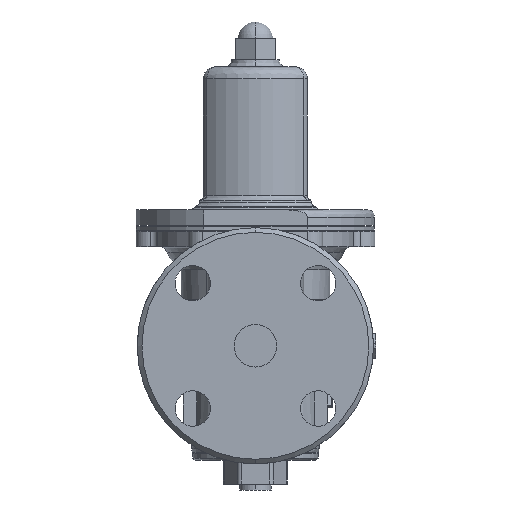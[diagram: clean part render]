
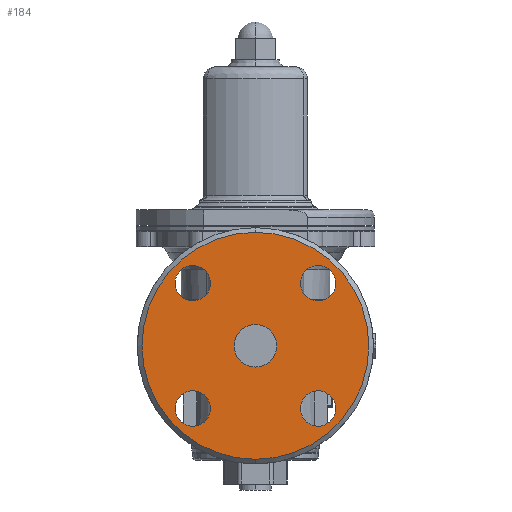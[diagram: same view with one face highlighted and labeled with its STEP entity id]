
A CAD part, left-side view. The second image highlights one B-rep face of the part: STEP entity #184.
In plain terms, the highlighted planar face has unit normal (-1, 0, 0).
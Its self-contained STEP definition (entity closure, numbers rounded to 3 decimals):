
#184=ADVANCED_FACE('',(#1842,#1843,#1844,#1845,#1846,#1847),#1841,.T.);
#1841=PLANE('',#5704);
#1842=FACE_OUTER_BOUND('',#5705,.T.);
#1843=FACE_BOUND('',#5706,.T.);
#1844=FACE_BOUND('',#5707,.T.);
#1845=FACE_BOUND('',#5708,.T.);
#1846=FACE_BOUND('',#5709,.T.);
#1847=FACE_BOUND('',#5710,.T.);
#5701=CARTESIAN_POINT('',(-100.,-93.138,-106.));
#5702=DIRECTION('',(-1.,0.,0.));
#5703=DIRECTION('',(0.,0.,1.));
#5704=AXIS2_PLACEMENT_3D('',#5701,#5702,#5703);
#5705=EDGE_LOOP('',(#8051,#8052));
#5706=EDGE_LOOP('',(#8053,#8054));
#5707=EDGE_LOOP('',(#8055,#8056));
#5708=EDGE_LOOP('',(#8057,#8058));
#5709=EDGE_LOOP('',(#8059,#8060));
#5710=EDGE_LOOP('',(#8061,#8062));
#8051=ORIENTED_EDGE('',*,*,#9496,.T.);
#8052=ORIENTED_EDGE('',*,*,#9497,.T.);
#8053=ORIENTED_EDGE('',*,*,#9498,.F.);
#8054=ORIENTED_EDGE('',*,*,#9499,.F.);
#8055=ORIENTED_EDGE('',*,*,#9500,.F.);
#8056=ORIENTED_EDGE('',*,*,#9501,.F.);
#8057=ORIENTED_EDGE('',*,*,#9502,.F.);
#8058=ORIENTED_EDGE('',*,*,#9503,.F.);
#8059=ORIENTED_EDGE('',*,*,#9504,.F.);
#8060=ORIENTED_EDGE('',*,*,#9505,.F.);
#8061=ORIENTED_EDGE('',*,*,#9506,.F.);
#8062=ORIENTED_EDGE('',*,*,#9507,.F.);
#9496=EDGE_CURVE('',#13106,#13107,#13108,.T.);
#9497=EDGE_CURVE('',#13107,#13106,#13114,.T.);
#9498=EDGE_CURVE('',#13120,#13121,#13122,.T.);
#9499=EDGE_CURVE('',#13121,#13120,#13128,.T.);
#9500=EDGE_CURVE('',#13134,#13135,#13136,.T.);
#9501=EDGE_CURVE('',#13135,#13134,#13142,.T.);
#9502=EDGE_CURVE('',#13148,#13149,#13150,.T.);
#9503=EDGE_CURVE('',#13149,#13148,#13156,.T.);
#9504=EDGE_CURVE('',#13162,#13163,#13164,.T.);
#9505=EDGE_CURVE('',#13163,#13162,#13170,.T.);
#9506=EDGE_CURVE('',#13176,#13177,#13178,.T.);
#9507=EDGE_CURVE('',#13177,#13176,#13184,.T.);
#13106=VERTEX_POINT('',#18523);
#13107=VERTEX_POINT('',#18524);
#13108=CIRCLE('',#18528,48.);
#13114=CIRCLE('',#18532,48.);
#13120=VERTEX_POINT('',#18533);
#13121=VERTEX_POINT('',#18534);
#13122=CIRCLE('',#18538,7.5);
#13128=CIRCLE('',#18542,7.5);
#13134=VERTEX_POINT('',#18543);
#13135=VERTEX_POINT('',#18544);
#13136=CIRCLE('',#18548,7.5);
#13142=CIRCLE('',#18552,7.5);
#13148=VERTEX_POINT('',#18553);
#13149=VERTEX_POINT('',#18554);
#13150=CIRCLE('',#18558,7.5);
#13156=CIRCLE('',#18562,7.5);
#13162=VERTEX_POINT('',#18563);
#13163=VERTEX_POINT('',#18564);
#13164=CIRCLE('',#18568,7.5);
#13170=CIRCLE('',#18572,7.5);
#13176=VERTEX_POINT('',#18573);
#13177=VERTEX_POINT('',#18574);
#13178=CIRCLE('',#18578,9.);
#13184=CIRCLE('',#18582,9.);
#18523=CARTESIAN_POINT('',(-100.,0.,48.));
#18524=CARTESIAN_POINT('',(-100.,0.,-48.));
#18525=CARTESIAN_POINT('',(-100.,0.,0.));
#18526=DIRECTION('',(-1.,0.,0.));
#18527=DIRECTION('',(0.,0.,1.));
#18528=AXIS2_PLACEMENT_3D('',#18525,#18526,#18527);
#18529=CARTESIAN_POINT('',(-100.,0.,0.));
#18530=DIRECTION('',(-1.,0.,0.));
#18531=DIRECTION('',(0.,0.,1.));
#18532=AXIS2_PLACEMENT_3D('',#18529,#18530,#18531);
#18533=CARTESIAN_POINT('',(-100.,26.517,34.017));
#18534=CARTESIAN_POINT('',(-100.,26.517,19.017));
#18535=CARTESIAN_POINT('',(-100.,26.517,26.517));
#18536=DIRECTION('',(-1.,0.,0.));
#18537=DIRECTION('',(0.,0.,-1.));
#18538=AXIS2_PLACEMENT_3D('',#18535,#18536,#18537);
#18539=CARTESIAN_POINT('',(-100.,26.517,26.517));
#18540=DIRECTION('',(-1.,0.,0.));
#18541=DIRECTION('',(0.,0.,-1.));
#18542=AXIS2_PLACEMENT_3D('',#18539,#18540,#18541);
#18543=CARTESIAN_POINT('',(-100.,26.517,-19.017));
#18544=CARTESIAN_POINT('',(-100.,26.517,-34.017));
#18545=CARTESIAN_POINT('',(-100.,26.517,-26.517));
#18546=DIRECTION('',(-1.,0.,0.));
#18547=DIRECTION('',(0.,0.,-1.));
#18548=AXIS2_PLACEMENT_3D('',#18545,#18546,#18547);
#18549=CARTESIAN_POINT('',(-100.,26.517,-26.517));
#18550=DIRECTION('',(-1.,0.,0.));
#18551=DIRECTION('',(0.,0.,-1.));
#18552=AXIS2_PLACEMENT_3D('',#18549,#18550,#18551);
#18553=CARTESIAN_POINT('',(-100.,-26.517,-19.017));
#18554=CARTESIAN_POINT('',(-100.,-26.517,-34.017));
#18555=CARTESIAN_POINT('',(-100.,-26.517,-26.517));
#18556=DIRECTION('',(-1.,0.,0.));
#18557=DIRECTION('',(0.,0.,-1.));
#18558=AXIS2_PLACEMENT_3D('',#18555,#18556,#18557);
#18559=CARTESIAN_POINT('',(-100.,-26.517,-26.517));
#18560=DIRECTION('',(-1.,0.,0.));
#18561=DIRECTION('',(0.,0.,-1.));
#18562=AXIS2_PLACEMENT_3D('',#18559,#18560,#18561);
#18563=CARTESIAN_POINT('',(-100.,-26.517,34.017));
#18564=CARTESIAN_POINT('',(-100.,-26.517,19.017));
#18565=CARTESIAN_POINT('',(-100.,-26.517,26.517));
#18566=DIRECTION('',(-1.,0.,0.));
#18567=DIRECTION('',(0.,0.,-1.));
#18568=AXIS2_PLACEMENT_3D('',#18565,#18566,#18567);
#18569=CARTESIAN_POINT('',(-100.,-26.517,26.517));
#18570=DIRECTION('',(-1.,0.,0.));
#18571=DIRECTION('',(0.,0.,-1.));
#18572=AXIS2_PLACEMENT_3D('',#18569,#18570,#18571);
#18573=CARTESIAN_POINT('',(-100.,0.,9.));
#18574=CARTESIAN_POINT('',(-100.,0.,-9.));
#18575=CARTESIAN_POINT('',(-100.,0.,0.));
#18576=DIRECTION('',(-1.,0.,0.));
#18577=DIRECTION('',(0.,0.,-1.));
#18578=AXIS2_PLACEMENT_3D('',#18575,#18576,#18577);
#18579=CARTESIAN_POINT('',(-100.,0.,0.));
#18580=DIRECTION('',(-1.,0.,0.));
#18581=DIRECTION('',(0.,0.,-1.));
#18582=AXIS2_PLACEMENT_3D('',#18579,#18580,#18581);
